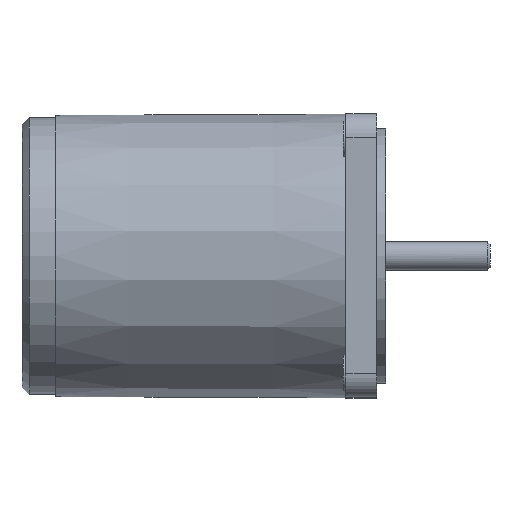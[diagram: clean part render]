
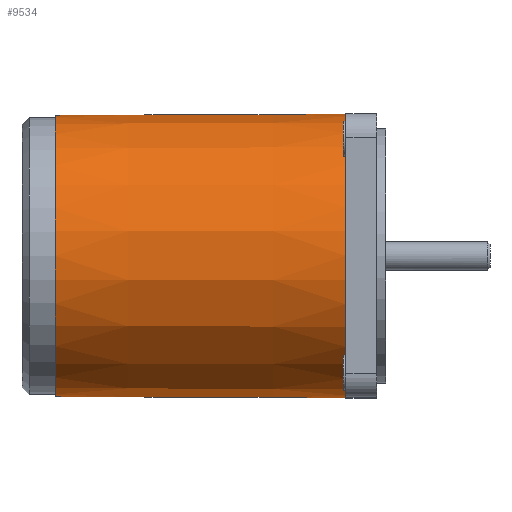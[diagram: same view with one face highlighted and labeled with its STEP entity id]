
A CAD part, top view. The second image highlights one B-rep face of the part: STEP entity #9534.
In plain terms, the highlighted conical face has half-angle 0.233 degrees and reference radius 29.875 mm.
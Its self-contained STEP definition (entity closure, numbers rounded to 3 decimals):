
#106=(
BOUNDED_CURVE()
B_SPLINE_CURVE(2,(#14568,#14569,#14570),.UNSPECIFIED.,.F.,.F.)
B_SPLINE_CURVE_WITH_KNOTS((3,3),(0.,4.2),.UNSPECIFIED.)
CURVE()
GEOMETRIC_REPRESENTATION_ITEM()
RATIONAL_B_SPLINE_CURVE((1.,1.,1.))
REPRESENTATION_ITEM('')
);
#107=(
BOUNDED_CURVE()
B_SPLINE_CURVE(2,(#14577,#14578,#14579),.UNSPECIFIED.,.F.,.F.)
B_SPLINE_CURVE_WITH_KNOTS((3,3),(0.,4.2),.UNSPECIFIED.)
CURVE()
GEOMETRIC_REPRESENTATION_ITEM()
RATIONAL_B_SPLINE_CURVE((1.,1.,1.))
REPRESENTATION_ITEM('')
);
#1755=CONICAL_SURFACE('',#10176,29.875,0.233);
#2009=FACE_BOUND('',#2753,.T.);
#2155=FACE_OUTER_BOUND('',#2752,.T.);
#2752=EDGE_LOOP('',(#6359));
#2753=EDGE_LOOP('',(#6360,#6361,#6362,#6363,#6364,#6365,#6366,#6367,#6368));
#3255=CIRCLE('',#10014,30.);
#3258=CIRCLE('',#10018,30.);
#3263=CIRCLE('',#10024,30.);
#3268=CIRCLE('',#10030,30.);
#3327=CIRCLE('',#10171,29.75);
#3330=CIRCLE('',#10177,29.829);
#3331=CIRCLE('',#10178,29.829);
#3332=CIRCLE('',#10179,29.829);
#3715=VERTEX_POINT('',#13865);
#3716=VERTEX_POINT('',#13866);
#3720=VERTEX_POINT('',#13876);
#3728=VERTEX_POINT('',#13894);
#3736=VERTEX_POINT('',#13931);
#3873=VERTEX_POINT('',#14558);
#3876=VERTEX_POINT('',#14567);
#3877=VERTEX_POINT('',#14571);
#3878=VERTEX_POINT('',#14573);
#3879=VERTEX_POINT('',#14575);
#4590=EDGE_CURVE('',#3715,#3716,#3255,.T.);
#4595=EDGE_CURVE('',#3716,#3720,#3258,.T.);
#4604=EDGE_CURVE('',#3720,#3728,#3263,.T.);
#4613=EDGE_CURVE('',#3736,#3715,#3268,.T.);
#4806=EDGE_CURVE('',#3873,#3873,#3327,.T.);
#4809=EDGE_CURVE('',#3736,#3876,#106,.T.);
#4810=EDGE_CURVE('',#3876,#3877,#3330,.T.);
#4811=EDGE_CURVE('',#3877,#3878,#3331,.T.);
#4812=EDGE_CURVE('',#3878,#3879,#3332,.T.);
#4813=EDGE_CURVE('',#3879,#3728,#107,.T.);
#6359=ORIENTED_EDGE('',*,*,#4806,.T.);
#6360=ORIENTED_EDGE('',*,*,#4809,.T.);
#6361=ORIENTED_EDGE('',*,*,#4810,.T.);
#6362=ORIENTED_EDGE('',*,*,#4811,.T.);
#6363=ORIENTED_EDGE('',*,*,#4812,.T.);
#6364=ORIENTED_EDGE('',*,*,#4813,.T.);
#6365=ORIENTED_EDGE('',*,*,#4604,.F.);
#6366=ORIENTED_EDGE('',*,*,#4595,.F.);
#6367=ORIENTED_EDGE('',*,*,#4590,.F.);
#6368=ORIENTED_EDGE('',*,*,#4613,.F.);
#9534=ADVANCED_FACE('',(#2155,#2009),#1755,.T.);
#10014=AXIS2_PLACEMENT_3D('',#13867,#11059,#11060);
#10018=AXIS2_PLACEMENT_3D('',#13877,#11069,#11070);
#10024=AXIS2_PLACEMENT_3D('',#13895,#11085,#11086);
#10030=AXIS2_PLACEMENT_3D('',#13933,#11097,#11098);
#10171=AXIS2_PLACEMENT_3D('',#14559,#11483,#11484);
#10176=AXIS2_PLACEMENT_3D('',#14566,#11493,#11494);
#10177=AXIS2_PLACEMENT_3D('',#14572,#11495,#11496);
#10178=AXIS2_PLACEMENT_3D('',#14574,#11497,#11498);
#10179=AXIS2_PLACEMENT_3D('',#14576,#11499,#11500);
#11059=DIRECTION('center_axis',(1.,0.,0.));
#11060=DIRECTION('ref_axis',(0.,1.,0.));
#11069=DIRECTION('center_axis',(1.,0.,0.));
#11070=DIRECTION('ref_axis',(0.,1.,0.));
#11085=DIRECTION('center_axis',(1.,0.,0.));
#11086=DIRECTION('ref_axis',(0.,1.,0.));
#11097=DIRECTION('center_axis',(1.,0.,0.));
#11098=DIRECTION('ref_axis',(0.,1.,0.));
#11483=DIRECTION('center_axis',(1.,0.,0.));
#11484=DIRECTION('ref_axis',(0.,1.,0.));
#11493=DIRECTION('center_axis',(1.,0.,0.));
#11494=DIRECTION('ref_axis',(0.,1.,0.));
#11495=DIRECTION('center_axis',(-1.,0.,0.));
#11496=DIRECTION('ref_axis',(0.,1.,0.));
#11497=DIRECTION('center_axis',(-1.,0.,0.));
#11498=DIRECTION('ref_axis',(0.,1.,0.));
#11499=DIRECTION('center_axis',(-1.,0.,0.));
#11500=DIRECTION('ref_axis',(0.,1.,0.));
#13865=CARTESIAN_POINT('',(68.5,30.,0.));
#13866=CARTESIAN_POINT('',(68.5,0.,30.));
#13867=CARTESIAN_POINT('Origin',(68.5,0.,0.));
#13876=CARTESIAN_POINT('',(68.5,-30.,0.));
#13877=CARTESIAN_POINT('Origin',(68.5,0.,0.));
#13894=CARTESIAN_POINT('',(68.5,-21.782,-20.628));
#13895=CARTESIAN_POINT('Origin',(68.5,0.,0.));
#13931=CARTESIAN_POINT('',(68.5,21.782,-20.628));
#13933=CARTESIAN_POINT('Origin',(68.5,0.,0.));
#14558=CARTESIAN_POINT('',(7.,29.75,0.));
#14559=CARTESIAN_POINT('Origin',(7.,0.,0.));
#14566=CARTESIAN_POINT('Origin',(37.75,0.,0.));
#14567=CARTESIAN_POINT('',(26.5,21.769,-20.393));
#14568=CARTESIAN_POINT('Ctrl Pts',(68.5,21.782,-20.628));
#14569=CARTESIAN_POINT('Ctrl Pts',(47.386,21.776,-20.51));
#14570=CARTESIAN_POINT('Ctrl Pts',(26.5,21.769,-20.393));
#14571=CARTESIAN_POINT('',(26.5,21.289,-20.894));
#14572=CARTESIAN_POINT('Origin',(26.5,0.,0.));
#14573=CARTESIAN_POINT('',(26.5,-21.289,-20.894));
#14574=CARTESIAN_POINT('Origin',(26.5,0.,0.));
#14575=CARTESIAN_POINT('',(26.5,-21.769,-20.393));
#14576=CARTESIAN_POINT('Origin',(26.5,0.,0.));
#14577=CARTESIAN_POINT('Ctrl Pts',(26.5,-21.769,-20.393));
#14578=CARTESIAN_POINT('Ctrl Pts',(47.386,-21.776,-20.51));
#14579=CARTESIAN_POINT('Ctrl Pts',(68.5,-21.782,-20.628));
